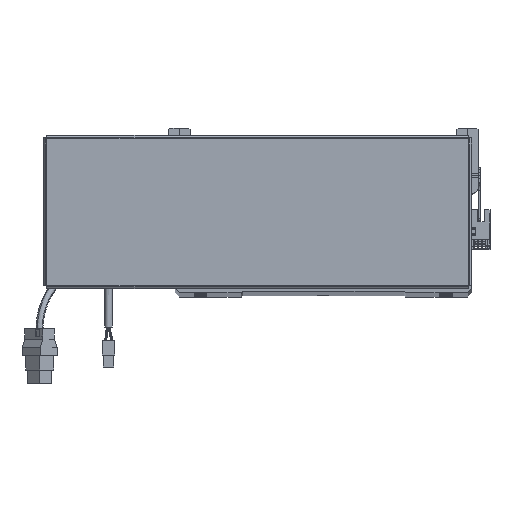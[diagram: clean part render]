
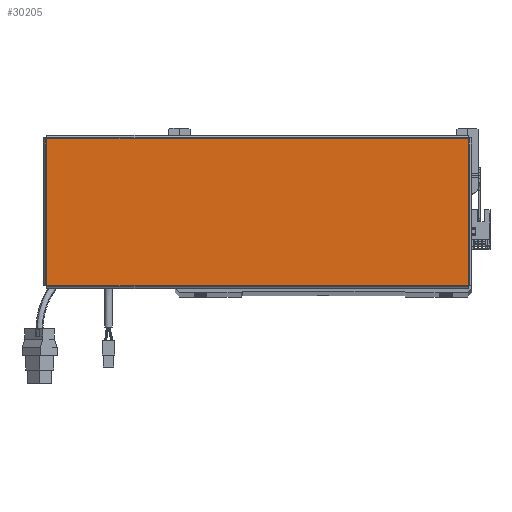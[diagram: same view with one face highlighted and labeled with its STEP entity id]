
A CAD part, top view. The second image highlights one B-rep face of the part: STEP entity #30205.
In plain terms, the highlighted planar face has unit normal (0, 0, 1).
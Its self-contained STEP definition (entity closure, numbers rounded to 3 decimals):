
#1227 = CARTESIAN_POINT ( 'NONE',  ( -156.513, -54.763, 0. ) ) ;
#2506 = ORIENTED_EDGE ( 'NONE', *, *, #72301, .T. ) ;
#7153 = VERTEX_POINT ( 'NONE', #1227 ) ;
#7399 = DIRECTION ( 'NONE',  ( 1., 0., 0. ) ) ;
#8710 = EDGE_CURVE ( 'NONE', #7153, #20641, #15963, .T. ) ;
#9368 = CARTESIAN_POINT ( 'NONE',  ( -156.543, -54.763, 0. ) ) ;
#9691 = EDGE_LOOP ( 'NONE', ( #62180, #62461, #2506, #42554 ) ) ;
#9922 = VERTEX_POINT ( 'NONE', #56387 ) ;
#15963 = LINE ( 'NONE', #9368, #63858 ) ;
#16078 = VECTOR ( 'NONE', #57323, 1000. ) ;
#18211 = PLANE ( 'NONE',  #41475 ) ;
#20641 = VERTEX_POINT ( 'NONE', #57882 ) ;
#22112 = EDGE_CURVE ( 'NONE', #9922, #7153, #34355, .T. ) ;
#27202 = EDGE_CURVE ( 'NONE', #20641, #32041, #70847, .T. ) ;
#28567 = DIRECTION ( 'NONE',  ( 0., 1., 0. ) ) ;
#28647 = CARTESIAN_POINT ( 'NONE',  ( 156.513, 54.763, 0. ) ) ;
#30205 = ADVANCED_FACE ( 'NONE', ( #56646 ), #18211, .T. ) ;
#32041 = VERTEX_POINT ( 'NONE', #28647 ) ;
#32268 = CARTESIAN_POINT ( 'NONE',  ( -156.513, 54.793, 0. ) ) ;
#34355 = LINE ( 'NONE', #32268, #35158 ) ;
#35158 = VECTOR ( 'NONE', #49418, 1000. ) ;
#35910 = CARTESIAN_POINT ( 'NONE',  ( 0., 0., 0. ) ) ;
#41475 = AXIS2_PLACEMENT_3D ( 'NONE', #35910, #47480, #7399 ) ;
#42554 = ORIENTED_EDGE ( 'NONE', *, *, #22112, .T. ) ;
#47480 = DIRECTION ( 'NONE',  ( 0., 0., 1. ) ) ;
#49418 = DIRECTION ( 'NONE',  ( 0., -1., 0. ) ) ;
#49717 = DIRECTION ( 'NONE',  ( 1., 0., 0. ) ) ;
#52190 = LINE ( 'NONE', #68509, #16078 ) ;
#56387 = CARTESIAN_POINT ( 'NONE',  ( -156.513, 54.763, 0. ) ) ;
#56646 = FACE_OUTER_BOUND ( 'NONE', #9691, .T. ) ;
#57218 = VECTOR ( 'NONE', #28567, 1000. ) ;
#57323 = DIRECTION ( 'NONE',  ( -1., 0., 0. ) ) ;
#57882 = CARTESIAN_POINT ( 'NONE',  ( 156.513, -54.763, 0. ) ) ;
#62180 = ORIENTED_EDGE ( 'NONE', *, *, #8710, .T. ) ;
#62461 = ORIENTED_EDGE ( 'NONE', *, *, #27202, .T. ) ;
#63858 = VECTOR ( 'NONE', #49717, 1000. ) ;
#68509 = CARTESIAN_POINT ( 'NONE',  ( 156.543, 54.763, 0. ) ) ;
#70847 = LINE ( 'NONE', #74872, #57218 ) ;
#72301 = EDGE_CURVE ( 'NONE', #32041, #9922, #52190, .T. ) ;
#74872 = CARTESIAN_POINT ( 'NONE',  ( 156.513, -54.793, 0. ) ) ;
